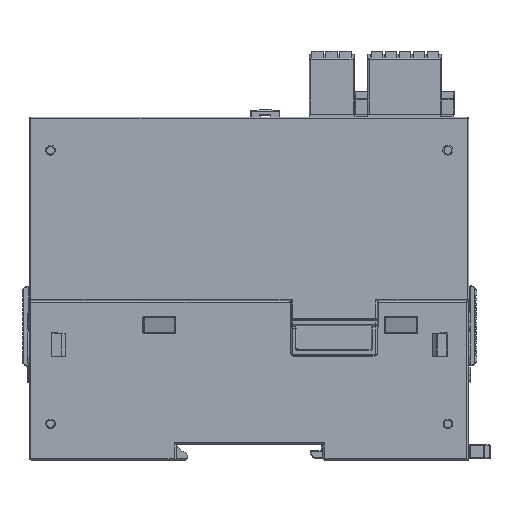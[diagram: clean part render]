
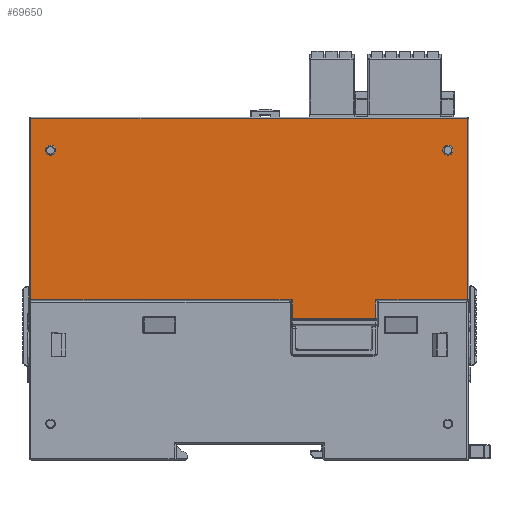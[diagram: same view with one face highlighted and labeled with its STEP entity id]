
A CAD part, top view. The second image highlights one B-rep face of the part: STEP entity #69650.
In plain terms, the highlighted planar face has unit normal (0, 0, 1).
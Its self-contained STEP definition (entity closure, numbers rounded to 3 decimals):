
#2504=DIRECTION('',(1.,0.,0.));
#2505=VECTOR('',#2504,61.1);
#2506=CARTESIAN_POINT('',(113.387,40.042,-80.173));
#2507=LINE('',#2506,#2505);
#2508=DIRECTION('',(1.,-0.001,0.));
#2509=VECTOR('',#2508,4.5);
#2510=CARTESIAN_POINT('',(174.487,40.053,-80.173));
#2511=LINE('',#2510,#2509);
#2538=DIRECTION('',(0.,-1.,0.));
#2539=VECTOR('',#2538,45.408);
#2540=CARTESIAN_POINT('',(113.387,85.45,-80.173));
#2541=LINE('',#2540,#2539);
#2561=DIRECTION('',(-1.,0.,0.));
#2562=VECTOR('',#2561,109.4);
#2563=CARTESIAN_POINT('',(222.787,85.45,-80.173));
#2564=LINE('',#2563,#2562);
#2569=CARTESIAN_POINT('',(217.837,77.5,-80.173));
#2570=DIRECTION('',(0.,0.,-1.));
#2571=DIRECTION('',(0.,-1.,0.));
#2572=AXIS2_PLACEMENT_3D('',#2569,#2570,#2571);
#2574=CARTESIAN_POINT('',(217.837,77.5,-80.173));
#2575=DIRECTION('',(0.,0.,-1.));
#2576=DIRECTION('',(0.,1.,0.));
#2577=AXIS2_PLACEMENT_3D('',#2574,#2575,#2576);
#2579=CARTESIAN_POINT('',(118.337,77.5,-80.173));
#2580=DIRECTION('',(0.,0.,-1.));
#2581=DIRECTION('',(0.,-1.,0.));
#2582=AXIS2_PLACEMENT_3D('',#2579,#2580,#2581);
#2584=CARTESIAN_POINT('',(118.337,77.5,-80.173));
#2585=DIRECTION('',(0.,0.,-1.));
#2586=DIRECTION('',(0.,1.,0.));
#2587=AXIS2_PLACEMENT_3D('',#2584,#2585,#2586);
#2593=DIRECTION('',(0.,1.,0.));
#2594=VECTOR('',#2593,45.41);
#2595=CARTESIAN_POINT('',(222.787,40.04,-80.173));
#2596=LINE('',#2595,#2594);
#33597=DIRECTION('',(1.,0.,0.));
#33598=VECTOR('',#33597,23.);
#33599=CARTESIAN_POINT('',(199.787,40.04,-80.173));
#33600=LINE('',#33599,#33598);
#33605=DIRECTION('',(0.,1.,0.));
#33606=VECTOR('',#33605,4.69);
#33607=CARTESIAN_POINT('',(199.787,35.35,-80.173));
#33608=LINE('',#33607,#33606);
#33740=DIRECTION('',(0.,-1.,0.));
#33741=VECTOR('',#33740,4.7);
#33742=CARTESIAN_POINT('',(178.987,40.05,-80.173));
#33743=LINE('',#33742,#33741);
#33771=DIRECTION('',(-1.,0.,0.));
#33772=VECTOR('',#33771,20.8);
#33773=CARTESIAN_POINT('',(199.787,35.35,-80.173));
#33774=LINE('',#33773,#33772);
#59426=CARTESIAN_POINT('',(118.337,76.25,-80.173));
#59427=CARTESIAN_POINT('',(118.337,78.75,-80.173));
#59428=VERTEX_POINT('',#59426);
#59429=VERTEX_POINT('',#59427);
#59430=CARTESIAN_POINT('',(222.787,85.45,-80.173));
#59431=CARTESIAN_POINT('',(113.387,85.45,-80.173));
#59432=VERTEX_POINT('',#59430);
#59433=VERTEX_POINT('',#59431);
#59434=CARTESIAN_POINT('',(222.787,40.04,
-80.173));
#59435=VERTEX_POINT('',#59434);
#59436=CARTESIAN_POINT('',(199.787,40.04,-80.173));
#59437=VERTEX_POINT('',#59436);
#59438=CARTESIAN_POINT('',(199.787,35.35,-80.173));
#59439=VERTEX_POINT('',#59438);
#59440=CARTESIAN_POINT('',(178.987,35.35,-80.173));
#59441=VERTEX_POINT('',#59440);
#59442=CARTESIAN_POINT('',(178.987,40.05,-80.173));
#59443=VERTEX_POINT('',#59442);
#59444=CARTESIAN_POINT('',(174.487,40.053,
-80.173));
#59445=VERTEX_POINT('',#59444);
#59446=CARTESIAN_POINT('',(113.387,40.042,
-80.173));
#59447=VERTEX_POINT('',#59446);
#59448=CARTESIAN_POINT('',(217.837,76.25,-80.173));
#59449=CARTESIAN_POINT('',(217.837,78.75,-80.173));
#59450=VERTEX_POINT('',#59448);
#59451=VERTEX_POINT('',#59449);
#69617=CARTESIAN_POINT('',(168.087,60.4,-80.173));
#69618=DIRECTION('',(0.,0.,1.));
#69619=DIRECTION('',(0.,-1.,0.));
#69620=AXIS2_PLACEMENT_3D('',#69617,#69618,#69619);
#69621=PLANE('',#69620);
#69622=ORIENTED_EDGE('',*,*,#69600,.F.);
#69624=ORIENTED_EDGE('',*,*,#69623,.F.);
#69626=ORIENTED_EDGE('',*,*,#69625,.F.);
#69628=ORIENTED_EDGE('',*,*,#69627,.F.);
#69630=ORIENTED_EDGE('',*,*,#69629,.T.);
#69632=ORIENTED_EDGE('',*,*,#69631,.F.);
#69633=ORIENTED_EDGE('',*,*,#69461,.F.);
#69634=ORIENTED_EDGE('',*,*,#69459,.F.);
#69635=ORIENTED_EDGE('',*,*,#69562,.F.);
#69636=EDGE_LOOP('',(#69622,#69624,#69626,#69628,#69630,#69632,#69633,#69634,
#69635));
#69637=FACE_OUTER_BOUND('',#69636,.F.);
#69639=ORIENTED_EDGE('',*,*,#69638,.F.);
#69641=ORIENTED_EDGE('',*,*,#69640,.F.);
#69642=EDGE_LOOP('',(#69639,#69641));
#69643=FACE_BOUND('',#69642,.F.);
#69645=ORIENTED_EDGE('',*,*,#69644,.F.);
#69647=ORIENTED_EDGE('',*,*,#69646,.F.);
#69648=EDGE_LOOP('',(#69645,#69647));
#69649=FACE_BOUND('',#69648,.F.);
#69650=ADVANCED_FACE('',(#69637,#69643,#69649),#69621,.T.);
#2573=CIRCLE('',#2572,1.25);
#2578=CIRCLE('',#2577,1.25);
#2583=CIRCLE('',#2582,1.25);
#2588=CIRCLE('',#2587,1.25);
#69459=EDGE_CURVE('',#59447,#59445,#2507,.T.);
#69461=EDGE_CURVE('',#59445,#59443,#2511,.T.);
#69562=EDGE_CURVE('',#59433,#59447,#2541,.T.);
#69600=EDGE_CURVE('',#59432,#59433,#2564,.T.);
#69623=EDGE_CURVE('',#59435,#59432,#2596,.T.);
#69625=EDGE_CURVE('',#59437,#59435,#33600,.T.);
#69627=EDGE_CURVE('',#59439,#59437,#33608,.T.);
#69629=EDGE_CURVE('',#59439,#59441,#33774,.T.);
#69631=EDGE_CURVE('',#59443,#59441,#33743,.T.);
#69638=EDGE_CURVE('',#59450,#59451,#2573,.T.);
#69640=EDGE_CURVE('',#59451,#59450,#2578,.T.);
#69644=EDGE_CURVE('',#59428,#59429,#2583,.T.);
#69646=EDGE_CURVE('',#59429,#59428,#2588,.T.);
